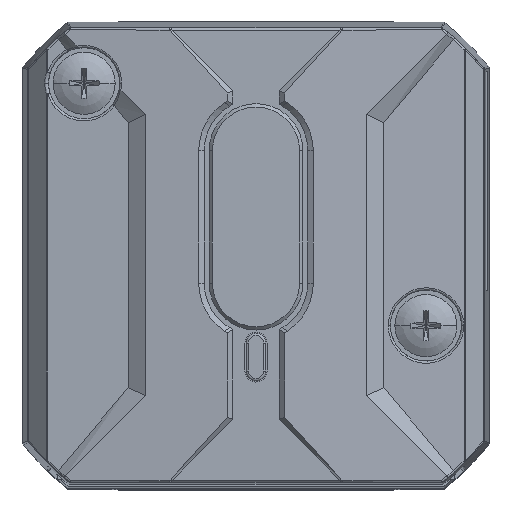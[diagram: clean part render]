
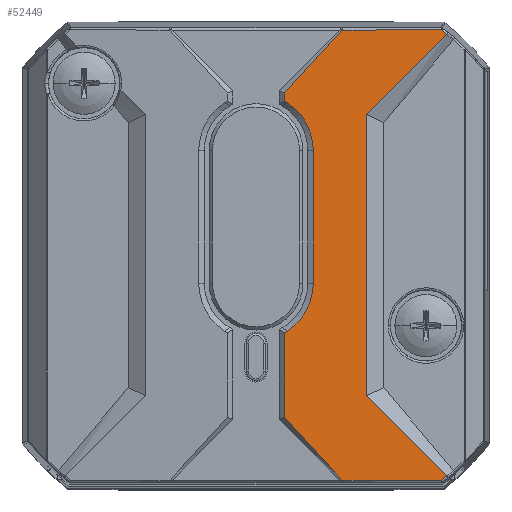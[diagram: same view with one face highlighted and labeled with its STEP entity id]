
A CAD part, top view. The second image highlights one B-rep face of the part: STEP entity #52449.
In plain terms, the highlighted planar face has unit normal (0.088, 0, 0.996).
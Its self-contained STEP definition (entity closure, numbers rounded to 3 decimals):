
#45490=CARTESIAN_POINT('',(7.745,20.285,20.255));
#45798=CARTESIAN_POINT('',(7.745,-20.285,
20.255));
#45810=DIRECTION('',(0.,1.,0.));
#45811=VECTOR('',#45810,7.61);
#45812=CARTESIAN_POINT('',(2.584,-14.613,
20.709));
#45813=LINE('',#45812,#45811);
#45859=DIRECTION('',(0.,1.,0.));
#45860=VECTOR('',#45859,11.958);
#45861=CARTESIAN_POINT('',(5.162,-2.534,
20.482));
#45862=LINE('',#45861,#45860);
#45880=DIRECTION('',(0.,1.,0.));
#45881=VECTOR('',#45880,0.72);
#45882=CARTESIAN_POINT('',(2.584,13.893,20.709));
#45883=LINE('',#45882,#45881);
#45894=CARTESIAN_POINT('',(17.203,-19.918,
19.423));
#45895=CARTESIAN_POINT('',(17.202,-19.916,
19.423));
#45896=CARTESIAN_POINT('',(17.2,-19.914,
19.424));
#45897=CARTESIAN_POINT('',(17.197,-19.91,
19.424));
#45898=CARTESIAN_POINT('',(17.194,-19.908,
19.424));
#45899=CARTESIAN_POINT('',(17.193,-19.907,
19.424));
#45904=CARTESIAN_POINT('',(16.741,-20.306,
19.464));
#45905=CARTESIAN_POINT('',(16.814,-20.246,
19.458));
#45906=CARTESIAN_POINT('',(16.964,-20.122,
19.444));
#45907=CARTESIAN_POINT('',(17.122,-19.988,
19.43));
#45908=CARTESIAN_POINT('',(17.203,-19.918,
19.423));
#45913=DIRECTION('',(0.996,-0.002,-0.088));
#45914=VECTOR('',#45913,9.031);
#45915=CARTESIAN_POINT('',(7.745,-20.285,
20.255));
#45916=LINE('',#45915,#45914);
#45920=DIRECTION('',(0.672,-0.738,-0.059));
#45921=VECTOR('',#45920,7.682);
#45922=CARTESIAN_POINT('',(2.584,-14.613,
20.709));
#45923=LINE('',#45922,#45921);
#45927=CARTESIAN_POINT('',(0.006,-2.509,
20.936));
#45928=DIRECTION('',(-0.088,0.,
-0.996));
#45929=DIRECTION('',(0.547,-0.836,-0.048));
#45930=AXIS2_PLACEMENT_3D('',#45927,#45928,#45929);
#45935=CARTESIAN_POINT('',(0.025,-2.531,
20.934));
#45936=DIRECTION('',(-0.088,0.,-0.996));
#45937=DIRECTION('',(0.996,-0.001,-0.088));
#45938=AXIS2_PLACEMENT_3D('',#45935,#45936,#45937);
#45943=CARTESIAN_POINT('',(0.025,9.421,
20.934));
#45944=DIRECTION('',(-0.088,0.,-0.996));
#45945=DIRECTION('',(0.546,0.836,-0.048));
#45946=AXIS2_PLACEMENT_3D('',#45943,#45944,#45945);
#45951=CARTESIAN_POINT('',(0.006,9.399,
20.936));
#45952=DIRECTION('',(-0.088,0.,
-0.996));
#45953=DIRECTION('',(0.497,0.867,-0.044));
#45954=AXIS2_PLACEMENT_3D('',#45951,#45952,#45953);
#45959=DIRECTION('',(-0.672,-0.738,0.059));
#45960=VECTOR('',#45959,7.682);
#45961=CARTESIAN_POINT('',(7.745,20.285,20.255));
#45962=LINE('',#45961,#45960);
#45966=DIRECTION('',(-0.996,-0.002,0.088));
#45967=VECTOR('',#45966,9.031);
#45968=CARTESIAN_POINT('',(16.741,20.306,19.464));
#45969=LINE('',#45968,#45967);
#45973=CARTESIAN_POINT('',(17.203,19.918,19.423));
#45974=CARTESIAN_POINT('',(17.13,19.98,19.43));
#45975=CARTESIAN_POINT('',(16.981,20.107,19.443));
#45976=CARTESIAN_POINT('',(16.822,20.239,19.457));
#45977=CARTESIAN_POINT('',(16.741,20.306,19.464));
#45982=CARTESIAN_POINT('',(17.193,19.907,19.424));
#45983=CARTESIAN_POINT('',(17.194,19.908,19.424));
#45984=CARTESIAN_POINT('',(17.197,19.91,19.424));
#45985=CARTESIAN_POINT('',(17.2,19.914,19.424));
#45986=CARTESIAN_POINT('',(17.202,19.916,19.423));
#45987=CARTESIAN_POINT('',(17.203,19.918,19.423));
#45992=DIRECTION('',(0.706,0.706,-0.062));
#45993=VECTOR('',#45992,10.24);
#45994=CARTESIAN_POINT('',(9.966,12.68,20.06));
#45995=LINE('',#45994,#45993);
#45999=DIRECTION('',(-0.706,0.706,0.062));
#46000=VECTOR('',#45999,10.24);
#46001=CARTESIAN_POINT('',(17.193,-19.907,
19.424));
#46002=LINE('',#46001,#46000);
#46041=DIRECTION('',(0.,-1.,0.));
#46042=VECTOR('',#46041,25.36);
#46043=CARTESIAN_POINT('',(9.966,12.68,20.06));
#46044=LINE('',#46043,#46042);
#46067=CARTESIAN_POINT('',(17.193,19.907,19.424));
#49954=CARTESIAN_POINT('',(9.966,12.68,20.06));
#49955=CARTESIAN_POINT('',(9.966,-12.68,
20.06));
#49956=VERTEX_POINT('',#49954);
#49957=VERTEX_POINT('',#49955);
#49966=CARTESIAN_POINT('',(2.584,13.893,20.709));
#49967=CARTESIAN_POINT('',(2.584,14.613,20.709));
#49968=VERTEX_POINT('',#49966);
#49969=VERTEX_POINT('',#49967);
#49970=CARTESIAN_POINT('',(2.584,-14.613,
20.709));
#49971=CARTESIAN_POINT('',(2.584,-7.003,
20.709));
#49972=VERTEX_POINT('',#49970);
#49973=VERTEX_POINT('',#49971);
#50006=CARTESIAN_POINT('',(2.841,-6.844,
20.686));
#50008=VERTEX_POINT('',#50006);
#50010=CARTESIAN_POINT('',(5.162,-2.534,
20.482));
#50012=VERTEX_POINT('',#50010);
#50014=CARTESIAN_POINT('',(5.162,9.424,20.482));
#50016=VERTEX_POINT('',#50014);
#50018=CARTESIAN_POINT('',(2.841,13.734,20.686));
#50020=VERTEX_POINT('',#50018);
#50074=VERTEX_POINT('',#45894);
#50075=VERTEX_POINT('',#45899);
#50078=VERTEX_POINT('',#45904);
#50084=VERTEX_POINT('',#45798);
#50107=VERTEX_POINT('',#46067);
#50108=VERTEX_POINT('',#45987);
#50110=VERTEX_POINT('',#45977);
#50112=VERTEX_POINT('',#45490);
#52417=CARTESIAN_POINT('',(2.584,-21.061,
20.709));
#52418=DIRECTION('',(0.088,0.,0.996));
#52419=DIRECTION('',(0.996,0.,-0.088));
#52420=AXIS2_PLACEMENT_3D('',#52417,#52418,#52419);
#52421=PLANE('',#52420);
#52423=ORIENTED_EDGE('',*,*,#52422,.F.);
#52425=ORIENTED_EDGE('',*,*,#52424,.F.);
#52426=ORIENTED_EDGE('',*,*,#52157,.F.);
#52427=ORIENTED_EDGE('',*,*,#52226,.F.);
#52428=ORIENTED_EDGE('',*,*,#52240,.T.);
#52429=ORIENTED_EDGE('',*,*,#52273,.F.);
#52430=ORIENTED_EDGE('',*,*,#52313,.F.);
#52431=ORIENTED_EDGE('',*,*,#52327,.T.);
#52432=ORIENTED_EDGE('',*,*,#52365,.F.);
#52433=ORIENTED_EDGE('',*,*,#52399,.F.);
#52434=ORIENTED_EDGE('',*,*,#52410,.T.);
#52435=ORIENTED_EDGE('',*,*,#51982,.F.);
#52436=ORIENTED_EDGE('',*,*,#51945,.F.);
#52438=ORIENTED_EDGE('',*,*,#52437,.F.);
#52440=ORIENTED_EDGE('',*,*,#52439,.F.);
#52442=ORIENTED_EDGE('',*,*,#52441,.F.);
#52444=ORIENTED_EDGE('',*,*,#52443,.T.);
#52446=ORIENTED_EDGE('',*,*,#52445,.F.);
#52447=EDGE_LOOP('',(#52423,#52425,#52426,#52427,#52428,#52429,#52430,#52431,
#52432,#52433,#52434,#52435,#52436,#52438,#52440,#52442,#52444,#52446));
#52448=FACE_OUTER_BOUND('',#52447,.F.);
#52449=ADVANCED_FACE('',(#52448),#52421,.T.);
#45900=B_SPLINE_CURVE_WITH_KNOTS('',3,(#45894,#45895,#45896,#45897,#45898,
#45899),.UNSPECIFIED.,.F.,.F.,(4,1,1,4),(0.,0.333,
0.667,1.),.UNSPECIFIED.);
#45909=B_SPLINE_CURVE_WITH_KNOTS('',3,(#45904,#45905,#45906,#45907,#45908),
.UNSPECIFIED.,.F.,.F.,(4,1,4),(0.,0.5,1.),.UNSPECIFIED.);
#45931=CIRCLE('',#45930,5.186);
#45939=CIRCLE('',#45938,5.157);
#45947=CIRCLE('',#45946,5.157);
#45955=CIRCLE('',#45954,5.186);
#45978=B_SPLINE_CURVE_WITH_KNOTS('',3,(#45973,#45974,#45975,#45976,#45977),
.UNSPECIFIED.,.F.,.F.,(4,1,4),(0.,0.5,1.),.UNSPECIFIED.);
#45988=B_SPLINE_CURVE_WITH_KNOTS('',3,(#45982,#45983,#45984,#45985,#45986,
#45987),.UNSPECIFIED.,.F.,.F.,(4,1,1,4),(0.,0.333,
0.667,1.),.UNSPECIFIED.);
#51945=EDGE_CURVE('',#50110,#50112,#45969,.T.);
#51982=EDGE_CURVE('',#50112,#49969,#45962,.T.);
#52157=EDGE_CURVE('',#50084,#50078,#45916,.T.);
#52226=EDGE_CURVE('',#49972,#50084,#45923,.T.);
#52240=EDGE_CURVE('',#49972,#49973,#45813,.T.);
#52273=EDGE_CURVE('',#50008,#49973,#45931,.T.);
#52313=EDGE_CURVE('',#50012,#50008,#45939,.T.);
#52327=EDGE_CURVE('',#50012,#50016,#45862,.T.);
#52365=EDGE_CURVE('',#50020,#50016,#45947,.T.);
#52399=EDGE_CURVE('',#49968,#50020,#45955,.T.);
#52410=EDGE_CURVE('',#49968,#49969,#45883,.T.);
#52422=EDGE_CURVE('',#50074,#50075,#45900,.T.);
#52424=EDGE_CURVE('',#50078,#50074,#45909,.T.);
#52437=EDGE_CURVE('',#50108,#50110,#45978,.T.);
#52439=EDGE_CURVE('',#50107,#50108,#45988,.T.);
#52441=EDGE_CURVE('',#49956,#50107,#45995,.T.);
#52443=EDGE_CURVE('',#49956,#49957,#46044,.T.);
#52445=EDGE_CURVE('',#50075,#49957,#46002,.T.);
